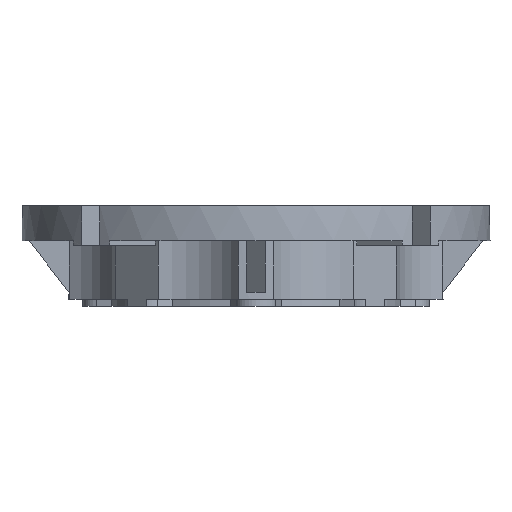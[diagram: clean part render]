
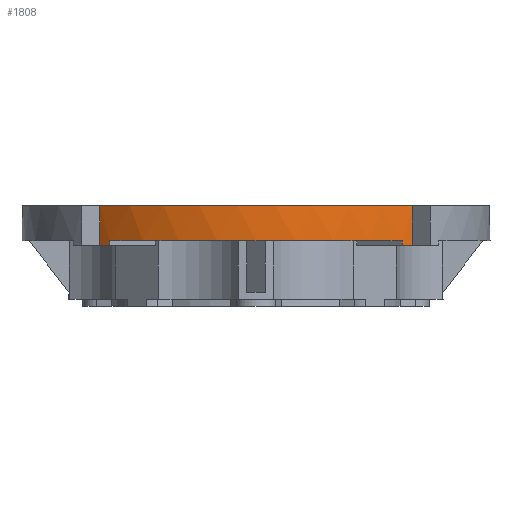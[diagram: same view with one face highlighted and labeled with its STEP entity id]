
A CAD part, front view. The second image highlights one B-rep face of the part: STEP entity #1808.
In plain terms, the highlighted cylindrical face has radius 100 mm (diameter 200 mm), a partial arc.
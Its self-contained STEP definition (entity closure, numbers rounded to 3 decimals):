
#1808=ADVANCED_FACE('',(#2009),#5147,.T.);
#2009=FACE_OUTER_BOUND('',#2221,.T.);
#2221=EDGE_LOOP('',(#3228,#3229,#3230,#3231,#3232,#3233,#3234,#3235));
#3228=ORIENTED_EDGE('',*,*,#3816,.T.);
#3229=ORIENTED_EDGE('',*,*,#3832,.T.);
#3230=ORIENTED_EDGE('',*,*,#3728,.F.);
#3231=ORIENTED_EDGE('',*,*,#3833,.T.);
#3232=ORIENTED_EDGE('',*,*,#3834,.T.);
#3233=ORIENTED_EDGE('',*,*,#3835,.T.);
#3234=ORIENTED_EDGE('',*,*,#3836,.T.);
#3235=ORIENTED_EDGE('',*,*,#3837,.T.);
#3728=EDGE_CURVE('',#4721,#4748,#4618,.T.);
#3816=EDGE_CURVE('',#4972,#4750,#4648,.T.);
#3832=EDGE_CURVE('',#4750,#4748,#4112,.T.);
#3833=EDGE_CURVE('',#4721,#4720,#4113,.T.);
#3834=EDGE_CURVE('',#4720,#4762,#4660,.T.);
#3835=EDGE_CURVE('',#4762,#4761,#4114,.T.);
#3836=EDGE_CURVE('',#4761,#4973,#4661,.T.);
#3837=EDGE_CURVE('',#4973,#4972,#4115,.T.);
#4112=TRIMMED_CURVE($,#4344,(#8408),(#8409),.T.,.CARTESIAN.);
#4113=TRIMMED_CURVE($,#4345,(#8411),(#8412),.T.,.CARTESIAN.);
#4114=TRIMMED_CURVE($,#4346,(#8416),(#8417),.T.,.CARTESIAN.);
#4115=TRIMMED_CURVE($,#4347,(#8421),(#8422),.T.,.CARTESIAN.);
#4344=CIRCLE('',#5829,100.);
#4345=CIRCLE('',#5830,100.);
#4346=CIRCLE('',#5831,100.);
#4347=CIRCLE('',#5832,100.);
#4618=B_SPLINE_CURVE_WITH_KNOTS('',1,(#8137,#8138),.UNSPECIFIED.,.F.,.F.,
(2,2),(0.,2.),.UNSPECIFIED.);
#4648=B_SPLINE_CURVE_WITH_KNOTS('',1,(#8371,#8372),.UNSPECIFIED.,.F.,.F.,
(2,2),(-17.,0.),.UNSPECIFIED.);
#4660=B_SPLINE_CURVE_WITH_KNOTS('',1,(#8413,#8414),.UNSPECIFIED.,.F.,.F.,
(2,2),(0.,2.),.UNSPECIFIED.);
#4661=B_SPLINE_CURVE_WITH_KNOTS('',1,(#8418,#8419),.UNSPECIFIED.,.F.,.F.,
(2,2),(0.,17.),.UNSPECIFIED.);
#4720=VERTEX_POINT('',#6893);
#4721=VERTEX_POINT('',#6894);
#4748=VERTEX_POINT('',#6921);
#4750=VERTEX_POINT('',#6923);
#4761=VERTEX_POINT('',#6934);
#4762=VERTEX_POINT('',#6935);
#4972=VERTEX_POINT('',#7145);
#4973=VERTEX_POINT('',#7146);
#5147=CYLINDRICAL_SURFACE('',#5604,100.);
#5604=AXIS2_PLACEMENT_3D('',#6842,#6035,$);
#5829=AXIS2_PLACEMENT_3D($,#8407,#6454,#6455);
#5830=AXIS2_PLACEMENT_3D($,#8410,#6456,#6457);
#5831=AXIS2_PLACEMENT_3D($,#8415,#6458,#6459);
#5832=AXIS2_PLACEMENT_3D($,#8420,#6460,#6461);
#6035=DIRECTION('',(-1.,0.,0.));
#6454=DIRECTION('',(1.,0.,0.));
#6455=DIRECTION('',(0.,-0.745,0.667));
#6456=DIRECTION('',(1.,0.,0.));
#6457=DIRECTION('',(0.,-0.781,0.625));
#6458=DIRECTION('',(1.,0.,0.));
#6459=DIRECTION('',(0.,-0.781,-0.625));
#6460=DIRECTION('',(-1.,0.,0.));
#6461=DIRECTION('',(0.,-0.745,-0.667));
#6842=CARTESIAN_POINT('',(34.5,0.,0.));
#6893=CARTESIAN_POINT('',(28.,-78.06,-62.503));
#6894=CARTESIAN_POINT('',(28.,-78.06,62.503));
#6921=CARTESIAN_POINT('',(26.,-78.06,62.503));
#6923=CARTESIAN_POINT('',(26.,-74.493,66.715));
#6934=CARTESIAN_POINT('',(26.,-74.493,-66.715));
#6935=CARTESIAN_POINT('',(26.,-78.06,-62.503));
#7145=CARTESIAN_POINT('',(43.,-74.493,66.715));
#7146=CARTESIAN_POINT('',(43.,-74.493,-66.715));
#8137=CARTESIAN_POINT('',(28.,-78.06,62.503));
#8138=CARTESIAN_POINT('',(26.,-78.06,62.503));
#8371=CARTESIAN_POINT('',(43.,-74.493,66.715));
#8372=CARTESIAN_POINT('',(26.,-74.493,66.715));
#8407=CARTESIAN_POINT('',(26.,0.,0.));
#8408=CARTESIAN_POINT('',(26.,-74.493,66.715));
#8409=CARTESIAN_POINT('',(26.,-78.06,62.503));
#8410=CARTESIAN_POINT('',(28.,0.,0.));
#8411=CARTESIAN_POINT('',(28.,-78.06,62.503));
#8412=CARTESIAN_POINT('',(28.,-78.06,-62.503));
#8413=CARTESIAN_POINT('',(28.,-78.06,-62.503));
#8414=CARTESIAN_POINT('',(26.,-78.06,-62.503));
#8415=CARTESIAN_POINT('',(26.,0.,0.));
#8416=CARTESIAN_POINT('',(26.,-78.06,-62.503));
#8417=CARTESIAN_POINT('',(26.,-74.493,-66.715));
#8418=CARTESIAN_POINT('',(26.,-74.493,-66.715));
#8419=CARTESIAN_POINT('',(43.,-74.493,-66.715));
#8420=CARTESIAN_POINT('',(43.,0.,0.));
#8421=CARTESIAN_POINT('',(43.,-74.493,-66.715));
#8422=CARTESIAN_POINT('',(43.,-74.493,66.715));
